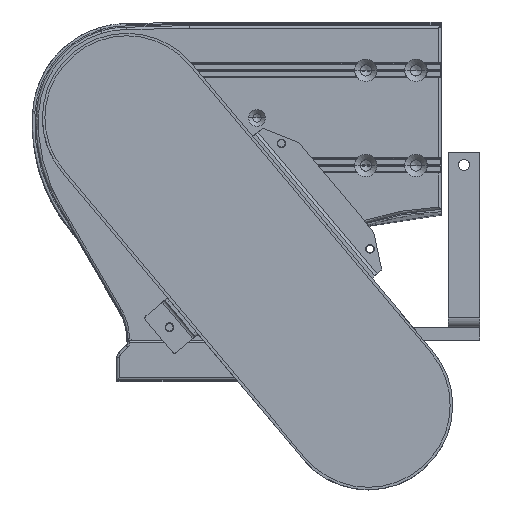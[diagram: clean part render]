
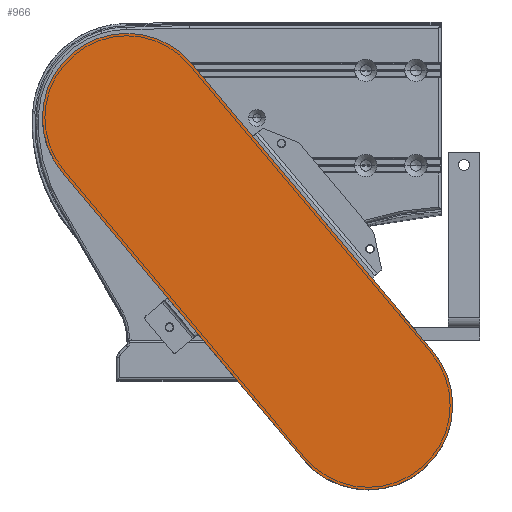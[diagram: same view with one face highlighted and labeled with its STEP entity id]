
A CAD part, top view. The second image highlights one B-rep face of the part: STEP entity #966.
In plain terms, the highlighted planar face has unit normal (0, 0, 1).
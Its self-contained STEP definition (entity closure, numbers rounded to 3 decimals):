
#966 = ADVANCED_FACE ( 'NONE', ( #15253 ), #16612, .T. ) ;
#1203 = LINE ( 'NONE', #8278, #10942 ) ;
#1575 = VERTEX_POINT ( 'NONE', #22737 ) ;
#1689 = EDGE_CURVE ( 'NONE', #20737, #27508, #10654, .T. ) ;
#2934 = DIRECTION ( 'NONE',  ( 0., 0., 1. ) ) ;
#3098 = CARTESIAN_POINT ( 'NONE',  ( -51.708, -43.388, 396.5 ) ) ;
#3207 = AXIS2_PLACEMENT_3D ( 'NONE', #20934, #16249, #13862 ) ;
#4956 = CARTESIAN_POINT ( 'NONE',  ( 0., 0., 396.5 ) ) ;
#6068 = AXIS2_PLACEMENT_3D ( 'NONE', #4956, #2934, #23706 ) ;
#6271 = ORIENTED_EDGE ( 'NONE', *, *, #1689, .T. ) ;
#6708 = CIRCLE ( 'NONE', #3207, 67.5 ) ;
#6999 = CARTESIAN_POINT ( 'NONE',  ( 192.835, -229.814, 396.5 ) ) ;
#7298 = DIRECTION ( 'NONE',  ( 0., 0., 1. ) ) ;
#7848 = EDGE_LOOP ( 'NONE', ( #25176, #18000, #18425, #6271, #12386 ) ) ;
#8192 = DIRECTION ( 'NONE',  ( 0., 0., 1. ) ) ;
#8278 = CARTESIAN_POINT ( 'NONE',  ( 51.708, 43.388, 396.5 ) ) ;
#8705 = CARTESIAN_POINT ( 'NONE',  ( 51.708, 43.388, 396.5 ) ) ;
#10654 = CIRCLE ( 'NONE', #15144, 67.5 ) ;
#10942 = VECTOR ( 'NONE', #29055, 1000. ) ;
#12386 = ORIENTED_EDGE ( 'NONE', *, *, #19118, .T. ) ;
#13008 = VERTEX_POINT ( 'NONE', #8705 ) ;
#13038 = DIRECTION ( 'NONE',  ( 1., 0., 0. ) ) ;
#13862 = DIRECTION ( 'NONE',  ( 1., 0., 0. ) ) ;
#15144 = AXIS2_PLACEMENT_3D ( 'NONE', #6999, #7298, #18480 ) ;
#15253 = FACE_OUTER_BOUND ( 'NONE', #7848, .T. ) ;
#15436 = CARTESIAN_POINT ( 'NONE',  ( -51.708, -43.388, 396.5 ) ) ;
#15934 = VECTOR ( 'NONE', #21570, 1000. ) ;
#16249 = DIRECTION ( 'NONE',  ( 0., 0., 1. ) ) ;
#16408 = CIRCLE ( 'NONE', #17327, 67.5 ) ;
#16612 = PLANE ( 'NONE',  #6068 ) ;
#17327 = AXIS2_PLACEMENT_3D ( 'NONE', #26546, #8192, #13038 ) ;
#18000 = ORIENTED_EDGE ( 'NONE', *, *, #27385, .T. ) ;
#18425 = ORIENTED_EDGE ( 'NONE', *, *, #24651, .T. ) ;
#18480 = DIRECTION ( 'NONE',  ( 1., 0., 0. ) ) ;
#19118 = EDGE_CURVE ( 'NONE', #27508, #13008, #1203, .T. ) ;
#20203 = CARTESIAN_POINT ( 'NONE',  ( 244.543, -186.426, 396.5 ) ) ;
#20737 = VERTEX_POINT ( 'NONE', #24562 ) ;
#20934 = CARTESIAN_POINT ( 'NONE',  ( 0., 0., 396.5 ) ) ;
#21570 = DIRECTION ( 'NONE',  ( 0.643, -0.766, 0. ) ) ;
#22737 = CARTESIAN_POINT ( 'NONE',  ( -67.5, 0., 396.5 ) ) ;
#23550 = LINE ( 'NONE', #3098, #15934 ) ;
#23706 = DIRECTION ( 'NONE',  ( 1., 0., 0. ) ) ;
#23794 = VERTEX_POINT ( 'NONE', #15436 ) ;
#24562 = CARTESIAN_POINT ( 'NONE',  ( 141.127, -273.202, 396.5 ) ) ;
#24651 = EDGE_CURVE ( 'NONE', #23794, #20737, #23550, .T. ) ;
#25176 = ORIENTED_EDGE ( 'NONE', *, *, #27062, .T. ) ;
#26546 = CARTESIAN_POINT ( 'NONE',  ( 0., 0., 396.5 ) ) ;
#27062 = EDGE_CURVE ( 'NONE', #13008, #1575, #6708, .T. ) ;
#27385 = EDGE_CURVE ( 'NONE', #1575, #23794, #16408, .T. ) ;
#27508 = VERTEX_POINT ( 'NONE', #20203 ) ;
#29055 = DIRECTION ( 'NONE',  ( -0.643, 0.766, 0. ) ) ;
